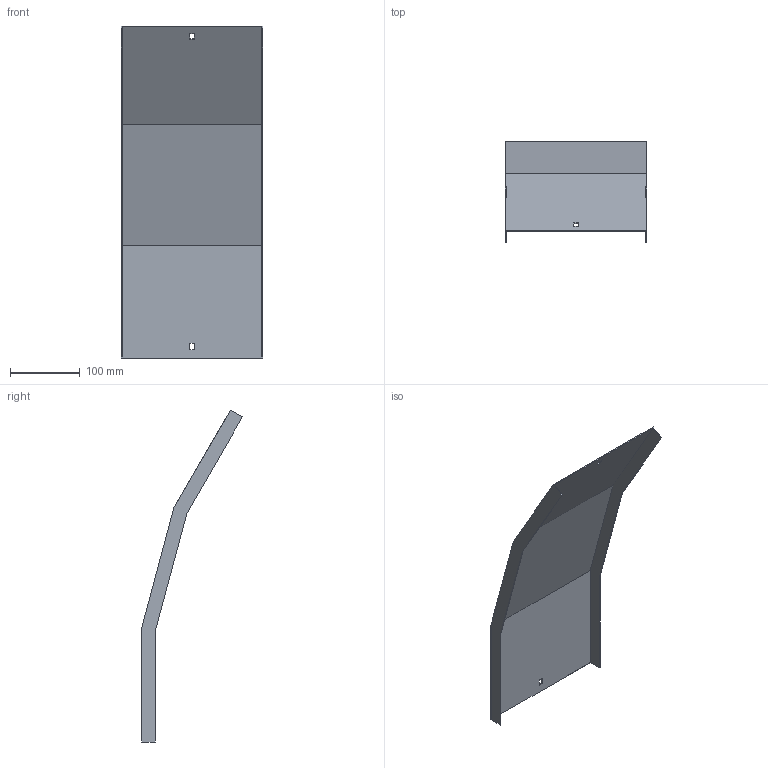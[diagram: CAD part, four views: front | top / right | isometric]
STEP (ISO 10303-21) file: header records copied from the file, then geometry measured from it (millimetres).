
FILE_DESCRIPTION (( 'STEP AP214' ), '1' );
FILE_NAME ('A2_35N3C200.step', '2025-02-21T10:30:07', ( '' ), ( '' ), 'SwSTEP 2.0', 'SolidWorks 2023', '' );
FILE_SCHEMA (( 'AUTOMOTIVE_DESIGN' ));
Length unit declared in the file: millimetre
Products named in the file (1): A2_35N3C200
Bounding box: 203 x 145.29 x 477.6 mm (x, y, z)
Volume: 181381.6 mm3; surface area: 244141.4 mm2
Topology: 1 solids, 1 shells, 26 faces, 72 edges, 48 vertices
Faces by surface type: plane 26
Entity records: 847 total; most frequent: CARTESIAN_POINT 147, ORIENTED_EDGE 144, DIRECTION 126, EDGE_CURVE 72, LINE 72, VECTOR 72, VERTEX_POINT 48, EDGE_LOOP 30
